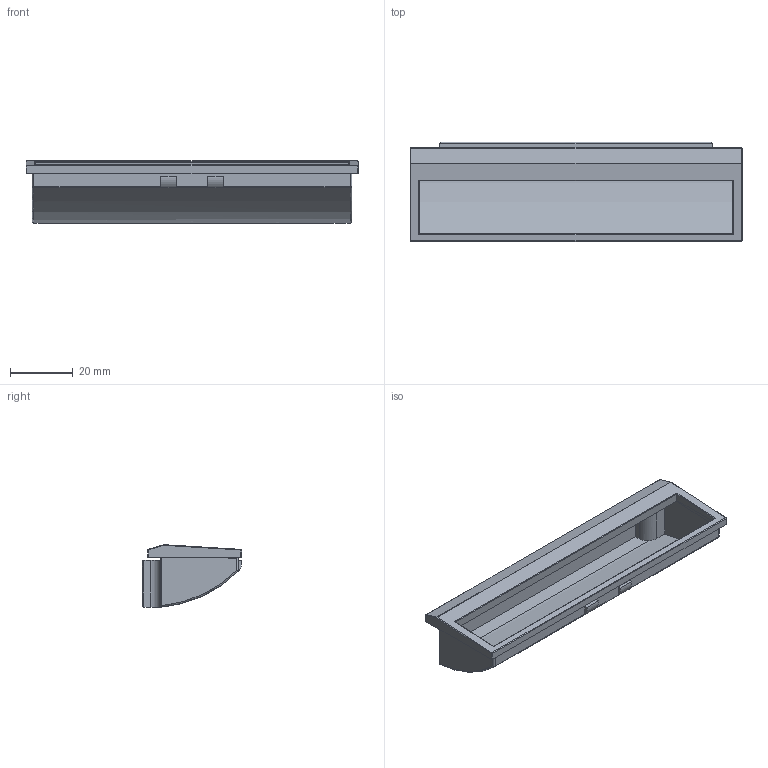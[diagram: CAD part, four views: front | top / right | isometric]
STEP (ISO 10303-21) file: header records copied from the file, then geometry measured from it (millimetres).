
FILE_DESCRIPTION (( 'STEP AP203' ), '1' );
FILE_NAME ('HP-004.STEP', '2015-11-18T07:37:07', ( '' ), ( '' ), 'SwSTEP 2.0', 'SolidWorks 2014', '' );
FILE_SCHEMA (( 'CONFIG_CONTROL_DESIGN' ));
Length unit declared in the file: millimetre
Products named in the file (1): HP-004
Bounding box: 106 x 31.76 x 20 mm (x, y, z)
Volume: 9433.6 mm3; surface area: 19013 mm2
Topology: 1 solids, 1 shells, 101 faces, 242 edges, 140 vertices
Faces by surface type: plane 47, cylinder 38, sphere 12, torus 3, bspline 1
Entity records: 2942 total; most frequent: CARTESIAN_POINT 574, DIRECTION 488, ORIENTED_EDGE 468, EDGE_CURVE 234, AXIS2_PLACEMENT_3D 169, LINE 150, VECTOR 150, VERTEX_POINT 140
